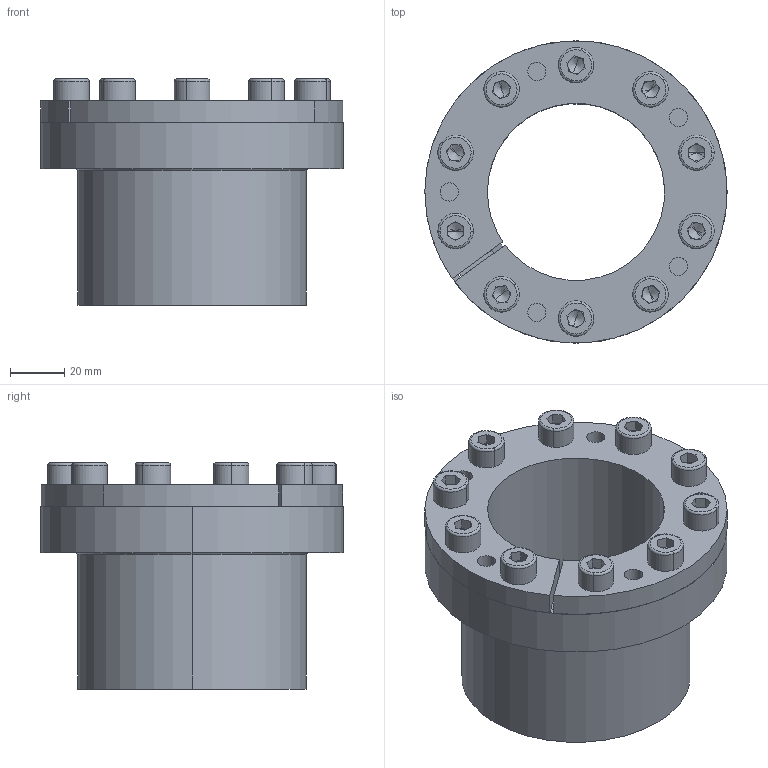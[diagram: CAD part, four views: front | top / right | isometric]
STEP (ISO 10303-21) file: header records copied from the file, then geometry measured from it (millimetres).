
FILE_DESCRIPTION (( 'STEP AP214' ), '1' );
FILE_NAME ('CONEX-B-65x84.step', '2013-04-04T12:42:16', ( 'Pc' ), ( '' ), 'SwSTEP 2.0', 'SolidWorks 2013', '' );
FILE_SCHEMA (( 'AUTOMOTIVE_DESIGN' ));
Length unit declared in the file: millimetre
Products named in the file (1): CONEX-B-65x84
Bounding box: 111 x 111 x 83.01 mm (x, y, z)
Volume: 249604.7 mm3; surface area: 111860.5 mm2
Topology: 13 solids, 13 shells, 360 faces, 828 edges, 494 vertices
Faces by surface type: plane 162, cylinder 106, torus 46, cone 46
Entity records: 14252 total; most frequent: DIRECTION 1916, CARTESIAN_POINT 1711, ORIENTED_EDGE 1616, EDGE_CURVE 808, AXIS2_PLACEMENT_3D 755, VERTEX_POINT 494, EDGE_LOOP 432, LINE 406
